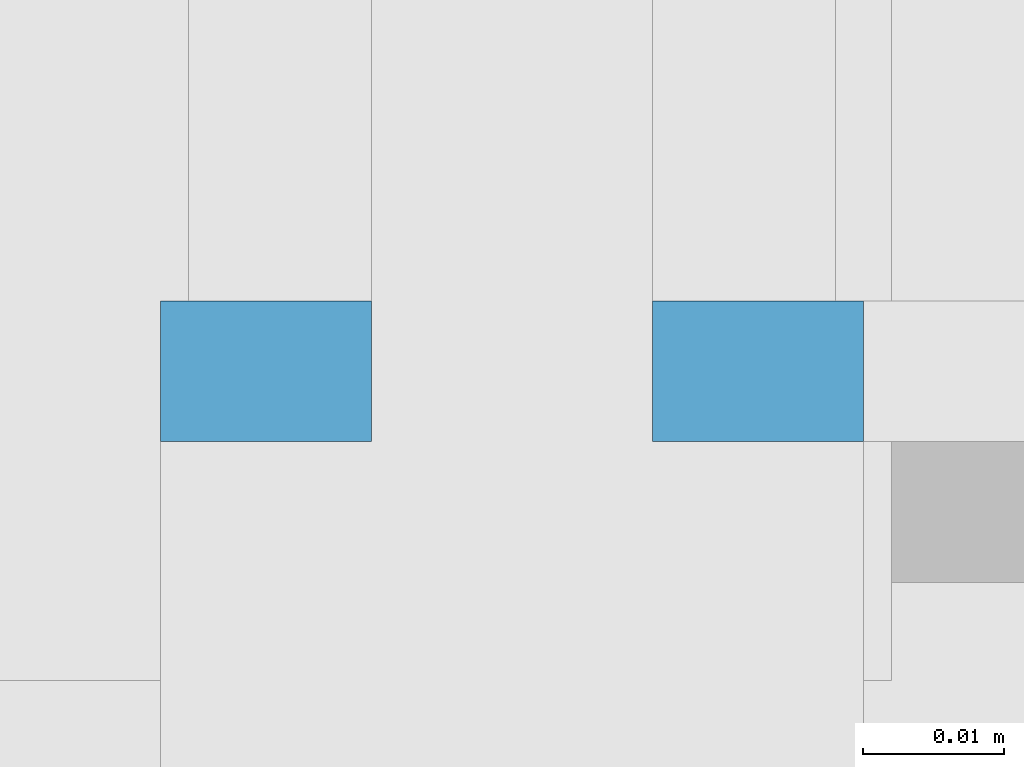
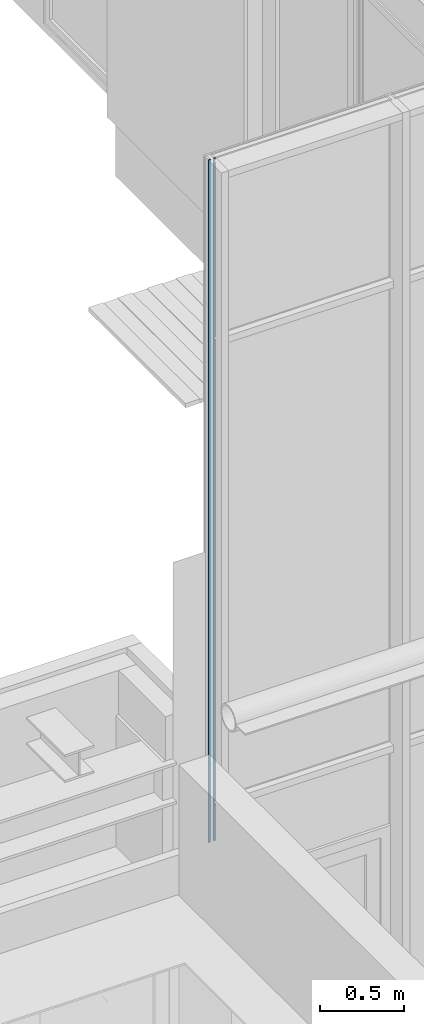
# One storey, part 94 of 347: 2 building element parts, 1 element without a shape of its own.
"""IFC2X3 building model written with IfcOpenShell, lengths in millimetres."""

import ifcopenshell
import ifcopenshell.guid

model = None  # the IFC model being written
_history = None  # IfcOwnerHistory: only IFC2X3 demands one
_inside = {}  # id of a spatial element -> (the spatial element, [elements in it])
_under = {}  # id of a project, library or spatial element -> (it, [spatial elements below it])
_declared = {}  # id of a project -> (the project, [libraries it declares])
_typed = {}  # id of a type object -> (the type object, [elements of that type])
_made_of = {}  # id of a material, layer set ... -> (it, [elements and type objects made of it])


def new_model(schema):
    """Start an empty IFC model of exactly this schema.

    Asked for "IFC4X3", IfcOpenShell would pick the latest addendum, in which some entities
    have other attributes; the version numbers below select the first issue.
    IFC2X3 requires an IfcOwnerHistory on every rooted entity: one is made here for all.
    """
    global model, _history
    if schema == "IFC4X3":
        model = ifcopenshell.file(schema_version=(4, 3, 0, 0))
    else:
        model = ifcopenshell.file(schema=schema)
    _inside.clear()
    _under.clear()
    _declared.clear()
    _typed.clear()
    _made_of.clear()
    _history = None
    if model.schema == "IFC2X3":
        org = make("IfcOrganization", Name="unknown")
        user = make(
            "IfcPersonAndOrganization",
            ThePerson=make("IfcPerson", FamilyName="unknown"),
            TheOrganization=org,
        )
        app = make(
            "IfcApplication",
            ApplicationDeveloper=org,
            Version="unknown",
            ApplicationFullName="unknown",
            ApplicationIdentifier="unknown",
        )
        _history = make(
            "IfcOwnerHistory",
            OwningUser=user,
            OwningApplication=app,
            ChangeAction="ADDED",
            CreationDate=0,
        )
    return model


def make(cls, **values):
    """One entity of the class cls with the attributes given. An attribute that is None is left unset."""
    return model.create_entity(
        cls, **{name: value for name, value in values.items() if value is not None}
    )


def entity(cls, *values):
    """Any entity or typed value of the class cls, its attributes in the order of the schema. None: left unset."""
    e = model.create_entity(cls)
    for i, value in enumerate(values):
        if value is not None:
            e[i] = value
    return e


def rooted(cls, **values):
    """An entity with a GlobalId (a new one), such as an element, a storey or a relation."""
    return make(cls, GlobalId=ifcopenshell.guid.new(), OwnerHistory=_history, **values)


def si_unit(unit_type, name, prefix=None):
    """IfcSIUnit, for example si_unit("LENGTHUNIT", "METRE", prefix="MILLI")."""
    return make("IfcSIUnit", UnitType=unit_type, Prefix=prefix, Name=name)


def converted_unit(unit_type, name, factor, base, dimensions=None, offset=None):
    """IfcConversionBasedUnit, such as the inch: factor (a typed value) times the base unit."""
    return make(
        "IfcConversionBasedUnit"
        if offset is None
        else "IfcConversionBasedUnitWithOffset",
        ConversionOffset=offset,
        Dimensions=None
        if dimensions is None
        else entity("IfcDimensionalExponents", *dimensions),
        UnitType=unit_type,
        Name=name,
        ConversionFactor=make(
            "IfcMeasureWithUnit", ValueComponent=factor, UnitComponent=base
        ),
    )


def derived_unit(unit_type, elements):
    """IfcDerivedUnit: a product of units, each with its exponent."""
    return make(
        "IfcDerivedUnit",
        Elements=[
            make("IfcDerivedUnitElement", Unit=unit, Exponent=power)
            for unit, power in elements
        ],
        UnitType=unit_type,
    )


def money_unit(currency):
    """IfcMonetaryUnit."""
    return make("IfcMonetaryUnit", Currency=currency)


def assignment(units):
    """IfcUnitAssignment: the units of a project."""
    return None if units is None else make("IfcUnitAssignment", Units=units)


def point(xyz):
    """IfcCartesianPoint."""
    return None if xyz is None else make("IfcCartesianPoint", Coordinates=xyz)


def direction(xyz):
    """IfcDirection."""
    return None if xyz is None else make("IfcDirection", DirectionRatios=xyz)


def frame(location, z_axis=None, x_axis=None):
    """IfcAxis2Placement3D, a coordinate frame: its origin and axes. An axis left out is left unset."""
    return make(
        "IfcAxis2Placement3D",
        Location=point(location),
        Axis=direction(z_axis),
        RefDirection=direction(x_axis),
    )


def origin_with_axes():
    """The frame at (0, 0, 0) with the z axis (0, 0, 1) and the x axis (1, 0, 0) written out."""
    return frame((0.0, 0.0, 0.0), z_axis=(0.0, 0.0, 1.0), x_axis=(1.0, 0.0, 0.0))


def place(relative_to, where):
    """IfcLocalPlacement: puts the frame where relative to a parent placement (None: the world)."""
    return make(
        "IfcLocalPlacement", PlacementRelTo=relative_to, RelativePlacement=where
    )


def context(
    kind, dimensions, precision=None, world=None, true_north=None, identifier=None
):
    """IfcGeometricRepresentationContext, for example the 3D "Model" context."""
    return make(
        "IfcGeometricRepresentationContext",
        ContextIdentifier=identifier,
        ContextType=kind,
        CoordinateSpaceDimension=dimensions,
        Precision=precision,
        WorldCoordinateSystem=world,
        TrueNorth=true_north,
    )


def subcontext(parent, identifier, kind, view, scale=None):
    """IfcGeometricRepresentationSubContext, for example "Body" below "Model"."""
    return make(
        "IfcGeometricRepresentationSubContext",
        ContextIdentifier=identifier,
        ContextType=kind,
        ParentContext=parent,
        TargetScale=scale,
        TargetView=view,
    )


def project(units=None, contexts=None):
    """IfcProject with its units and contexts."""
    return rooted(
        "IfcProject",
        Name="project",
        RepresentationContexts=contexts,
        UnitsInContext=assignment(units),
    )


def spatial(cls, under=None, at=None, **own):
    """A site, building, storey or space (cls), placed at a placement, below another one or the project."""
    s = rooted(cls, ObjectPlacement=at, **own)
    if under is not None:
        _under.setdefault(under.id(), (under, []))[1].append(s)
    return s


def faces_of(points, faces, orient=None, outer=None):
    """IfcFace entities. A face is a list of loops; a loop is a list of indices into points, from 0.

    orient and outer hold one flag for each loop. By default every Orientation is true, the
    first loop of a face is its IfcFaceOuterBound and the others are IfcFaceBound.
    """
    made = []
    for i, loops in enumerate(faces):
        bounds = []
        for j, loop in enumerate(loops):
            is_outer = j == 0 if outer is None else outer[i][j]
            bounds.append(
                make(
                    "IfcFaceOuterBound" if is_outer else "IfcFaceBound",
                    Bound=make("IfcPolyLoop", Polygon=[points[k] for k in loop]),
                    Orientation=True if orient is None else orient[i][j],
                )
            )
        made.append(make("IfcFace", Bounds=bounds))
    return made


def faceted_brep(points, faces, orient=None, outer=None, voids=None):
    """IfcFacetedBrep: a solid bounded by flat faces; with voids (closed shells), ...WithVoids."""
    shared = [point(p) for p in points]
    hull = make("IfcClosedShell", CfsFaces=faces_of(shared, faces, orient, outer))
    if voids is None:
        return make("IfcFacetedBrep", Outer=hull)
    return make(
        "IfcFacetedBrepWithVoids",
        Outer=hull,
        Voids=[
            make(cls, CfsFaces=faces_of(shared, fs, o, b)) for cls, fs, o, b in voids
        ],
    )


def shape(context_of_items, identifier, shape_type, items):
    """IfcShapeRepresentation: the items that make up one representation, for example the "Body"."""
    return make(
        "IfcShapeRepresentation",
        ContextOfItems=context_of_items,
        RepresentationIdentifier=identifier,
        RepresentationType=shape_type,
        Items=items,
    )


def material(Name=None, Category=None):
    """IfcMaterial."""
    return make("IfcMaterial", Name=Name, Category=Category)


def made_of(thing, what):
    """Note that an element or type object is made of a material, layer set ...; save() writes the relation."""
    if what is not None:
        _made_of.setdefault(what.id(), (what, []))[1].append(thing)
    return thing


def type_object(cls, material=None, **own):
    """A type object (cls), such as IfcWallType, which elements share."""
    return made_of(rooted(cls, **own), material)


def element(
    cls,
    number,
    at=None,
    inside=None,
    cuts=None,
    type_object=None,
    material=None,
    context=None,
    identifier="Body",
    shape_type=None,
    held_by="IfcProductDefinitionShape",
    body=None,
    shapes=None,
    **own,
):
    """One element of the class cls, such as IfcWall. Its Tag is "e" and its number.

    at: its placement. inside: the storey or other place that contains it. cuts: it is an
    opening in that element (IfcRelVoidsElement). A single representation is given by context,
    identifier, shape_type and body (its items); several are given by shapes. held_by: the class
    of the entity that holds the representations. save() writes the other relations.
    """
    e = rooted(cls, Tag="e%d" % number, ObjectPlacement=at, **own)
    if body is not None:
        shapes = [shape(context, identifier, shape_type, body)]
    if shapes is not None:
        e.Representation = make(held_by, Representations=shapes)
    if inside is not None:
        _inside.setdefault(inside.id(), (inside, []))[1].append(e)
    if cuts is not None:
        rooted(
            "IfcRelVoidsElement", RelatingBuildingElement=cuts, RelatedOpeningElement=e
        )
    if type_object is not None:
        _typed.setdefault(type_object.id(), (type_object, []))[1].append(e)
    return made_of(e, material)


def aggregate(whole, parts):
    """IfcRelAggregates: a whole, such as a stair, and the parts it consists of."""
    return rooted("IfcRelAggregates", RelatingObject=whole, RelatedObjects=parts)


def save(model, path):
    """Write the relations noted so far, then the file.

    IfcRelAggregates (storeys below a building ...), IfcRelContainedInSpatialStructure (elements
    in a storey), IfcRelDefinesByType, IfcRelAssociatesMaterial and IfcRelDeclares: one each for
    every whole, place, type object, material and project.
    """
    for whole, parts in _under.values():
        aggregate(whole, parts)
    for where, things in _inside.values():
        rooted(
            "IfcRelContainedInSpatialStructure",
            RelatedElements=things,
            RelatingStructure=where,
        )
    for kind, things in _typed.values():
        rooted("IfcRelDefinesByType", RelatedObjects=things, RelatingType=kind)
    for what, things in _made_of.values():
        rooted("IfcRelAssociatesMaterial", RelatedObjects=things, RelatingMaterial=what)
    for by, libraries in _declared.values():
        rooted("IfcRelDeclares", RelatingContext=by, RelatedDefinitions=libraries)
    model.write(path)


model = new_model("IFC2X3")

# Units and contexts
model_context = context("Model", 3, precision=0.01, world=origin_with_axes(), true_north=direction((0.0, 1.0)))
plan_context = context("Plan", 3, precision=0.01, world=origin_with_axes(), true_north=direction((0.0, 1.0)))
body_context = subcontext(model_context, "Body", "Model", "MODEL_VIEW")
ifc_project = project(units=[si_unit("LENGTHUNIT", "METRE", prefix="MILLI"), si_unit("AREAUNIT", "SQUARE_METRE"), si_unit("VOLUMEUNIT", "CUBIC_METRE"), converted_unit("PLANEANGLEUNIT", "DEGREE", entity("IfcPlaneAngleMeasure", 0.0174532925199), si_unit("PLANEANGLEUNIT", "RADIAN"), dimensions=[0, 0, 0, 0, 0, 0, 0]), money_unit("EUR"), converted_unit("TIMEUNIT", "Year", entity("IfcTimeMeasure", 31556926.0), si_unit("TIMEUNIT", "SECOND"), dimensions=[0, 0, 1, 0, 0, 0, 0]), si_unit("MASSUNIT", "GRAM", prefix="KILO"), si_unit("THERMODYNAMICTEMPERATUREUNIT", "DEGREE_CELSIUS"), si_unit("LUMINOUSINTENSITYUNIT", "LUMEN"), si_unit("ENERGYUNIT", "JOULE", prefix="MEGA"), derived_unit("THERMALCONDUCTANCEUNIT", [(si_unit("POWERUNIT", "WATT"), 1), (si_unit("LENGTHUNIT", "METRE"), -1), (si_unit("THERMODYNAMICTEMPERATUREUNIT", "KELVIN"), -1)]), derived_unit("SPECIFICHEATCAPACITYUNIT", [(si_unit("ENERGYUNIT", "JOULE"), 1), (si_unit("MASSUNIT", "GRAM", prefix="KILO"), -1), (si_unit("THERMODYNAMICTEMPERATUREUNIT", "KELVIN"), -1)]), derived_unit("MASSDENSITYUNIT", [(si_unit("MASSUNIT", "GRAM", prefix="KILO"), 1), (si_unit("VOLUMEUNIT", "CUBIC_METRE"), -1)])], contexts=[model_context, plan_context])

# Site, building, storey
site_placement = place(None, origin_with_axes())
site = spatial("IfcSite", under=ifc_project, at=site_placement, Name="Site", CompositionType="ELEMENT")
building_placement = place(site_placement, origin_with_axes())
building = spatial("IfcBuilding", under=site, at=building_placement, Name="Naam gebouw", CompositionType="ELEMENT")
storey_placement = place(building_placement, origin_with_axes())
storey = spatial("IfcBuildingStorey", under=building, at=storey_placement, Name="begane grond", CompositionType="ELEMENT", Elevation=0.0)

# Column, building element parts
column_type = type_object("IfcColumnType", Name="31 vliesgevelstijl 50 x 215", PredefinedType="COLUMN")
column_placement = place(storey_placement, frame((18650.0, 18400.0, 0.0), z_axis=(0.0, 0.0, 1.0), x_axis=(1.0, 0.0, 0.0)))
column = element("IfcColumn", 1, at=column_placement, inside=storey, type_object=column_type, Name="28_kolom ø 275mm", ObjectType="COLUMN")
ifc_material = material(Name="Membraan - rubber")
building_element_part_1_placement = place(column_placement, origin_with_axes())
building_element_part_1 = element("IfcBuildingElementPart", 2, at=building_element_part_1_placement, material=ifc_material, Name="Membraan - rubber", context=body_context, shape_type="Brep", body=[
    faceted_brep([(25.0000002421, 149.999999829, 3165.00000048), (25.0000002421, 149.999999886, 2900.0), (25.0000002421, 160.000000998, 2900.0), (25.0000002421, 160.000000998, 3165.00000048), (10.0000001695, 150.000000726, 7840.0), (10.0000001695, 150.000000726, 2900.0), (15.0, 149.999999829, 3165.00000048), (15.0, 149.999999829, 3185.00000058), (25.0000002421, 149.999999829, 3185.00000058), (25.0000002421, 149.999999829, 6525.00000048), (15.0, 149.999999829, 6525.00000048), (15.0, 149.999999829, 6545.00000058), (25.0000002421, 149.999999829, 6545.00000058), (25.0000002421, 150.000001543, 7804.99999952), (15.0, 150.000001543, 7804.99999952), (15.0, 150.000001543, 7824.99999994), (25.0000002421, 150.000001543, 7824.99999994), (25.0000002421, 150.000000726, 7840.0), (10.0000001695, 160.000000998, 2900.0), (23.000000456, 160.000000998, 2900.0), (23.000000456, 160.000000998, 3165.00000048), (15.0, 160.000000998, 3165.00000048), (10.0000001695, 160.000000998, 7840.0), (15.0, 160.000000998, 3185.00000058), (23.000000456, 160.000000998, 3185.00000058), (25.0000002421, 160.000000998, 3185.00000058), (25.0000002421, 160.000000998, 6525.00000048), (23.000000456, 160.000000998, 6525.00000048), (15.0, 160.000000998, 6525.00000048), (15.0, 160.000000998, 6545.00000058), (23.000000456, 160.000000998, 6545.00000058), (25.0000002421, 160.000000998, 6545.00000058), (25.0000002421, 160.000000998, 7804.99999952), (23.000000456, 160.000000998, 7804.99999952), (15.0, 160.000000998, 7804.99999952), (15.0, 160.000000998, 7824.99999994), (23.000000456, 160.000000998, 7824.99999994), (25.0000002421, 160.000000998, 7824.99999994), (25.0000002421, 160.000000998, 7840.0), (23.000000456, 160.000000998, 7840.0)], [[[0, 1, 2, 3]], [[4, 5, 1, 0, 6, 7, 8, 9, 10, 11, 12, 13, 14, 15, 16, 17]], [[18, 19, 2, 1, 5]], [[3, 2, 19, 20]], [[6, 0, 3, 20, 21]], [[22, 18, 5, 4]], [[6, 21, 23, 7]], [[23, 24, 25, 8, 7]], [[9, 8, 25, 26]], [[10, 9, 26, 27, 28]], [[10, 28, 29, 11]], [[29, 30, 31, 12, 11]], [[13, 12, 31, 32]], [[14, 13, 32, 33, 34]], [[14, 34, 35, 15]], [[35, 36, 37, 16, 15]], [[17, 16, 37, 38]], [[38, 39, 22, 4, 17]], [[20, 19, 18, 22, 39, 36, 35, 34, 33, 30, 29, 28, 27, 24, 23, 21]], [[26, 25, 24, 27]], [[32, 31, 30, 33]], [[38, 37, 36, 39]]]),
])
building_element_part_2_placement = place(column_placement, origin_with_axes())
building_element_part_2 = element("IfcBuildingElementPart", 3, at=building_element_part_2_placement, material=ifc_material, Name="Membraan - rubber", context=body_context, shape_type="Brep", body=[
    faceted_brep([(-9.99999992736, 150.000000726, 7840.0), (-9.99999992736, 150.000000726, 2900.0), (-9.99999992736, 160.000000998, 2900.0), (-9.99999992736, 160.000000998, 7840.0), (-25.0, 150.000000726, 7840.0), (-25.0, 150.000000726, 2900.0), (-25.0, 160.000000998, 2900.0), (-23.0000002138, 160.000000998, 2900.0), (-23.0000002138, 160.000000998, 7840.0), (-25.0, 160.000000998, 7840.0)], [[[0, 1, 2, 3]], [[4, 5, 1, 0]], [[6, 7, 2, 1, 5]], [[3, 2, 7, 8]], [[3, 8, 9, 4, 0]], [[9, 6, 5, 4]], [[8, 7, 6, 9]]]),
])
aggregate(column, [building_element_part_1, building_element_part_2])

save(model, "model.ifc")
